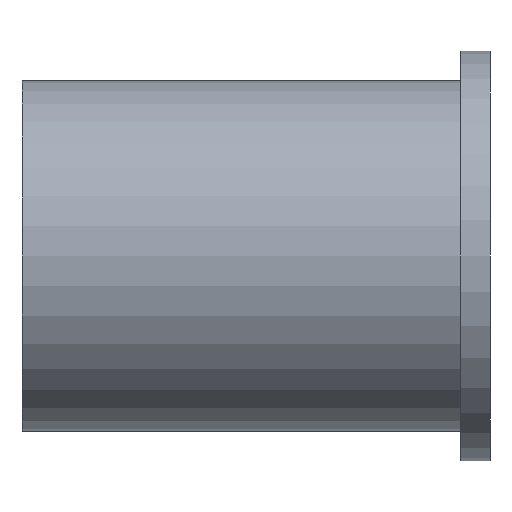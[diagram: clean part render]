
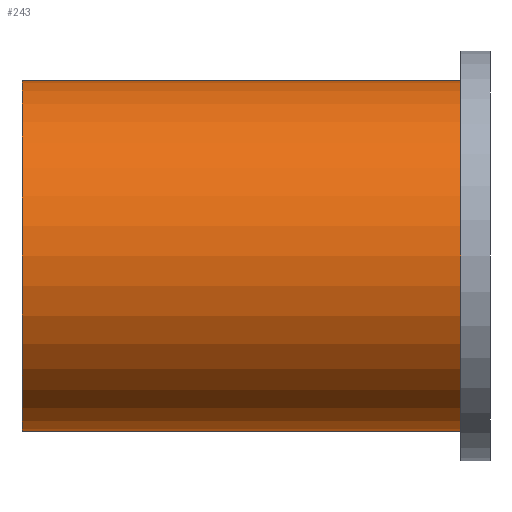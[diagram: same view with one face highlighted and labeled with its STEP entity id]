
A CAD part, left-side view. The second image highlights one B-rep face of the part: STEP entity #243.
In plain terms, the highlighted cylindrical face has radius 9.525 mm (diameter 19.05 mm), a partial arc.
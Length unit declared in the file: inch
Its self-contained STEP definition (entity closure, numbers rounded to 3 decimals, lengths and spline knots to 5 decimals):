
#1 = EDGE_LOOP ( 'NONE', ( #90, #49, #94, #24 ) ) ;
#2 = VERTEX_POINT ( 'NONE', #138 ) ;
#19 = CARTESIAN_POINT ( 'NONE',  ( 0., 1., 0.375 ) ) ;
#24 = ORIENTED_EDGE ( 'NONE', *, *, #156, .T. ) ;
#44 = AXIS2_PLACEMENT_3D ( 'NONE', #134, #213, #218 ) ;
#47 = LINE ( 'NONE', #200, #185 ) ;
#49 = ORIENTED_EDGE ( 'NONE', *, *, #276, .F. ) ;
#50 = VERTEX_POINT ( 'NONE', #83 ) ;
#51 = AXIS2_PLACEMENT_3D ( 'NONE', #69, #118, #202 ) ;
#69 = CARTESIAN_POINT ( 'NONE',  ( 0., 0.0625, 0. ) ) ;
#71 = CARTESIAN_POINT ( 'NONE',  ( 0., 1., 0. ) ) ;
#72 = VECTOR ( 'NONE', #257, 39.37008 ) ;
#83 = CARTESIAN_POINT ( 'NONE',  ( 0., 0.0625, 0.375 ) ) ;
#90 = ORIENTED_EDGE ( 'NONE', *, *, #100, .F. ) ;
#94 = ORIENTED_EDGE ( 'NONE', *, *, #121, .T. ) ;
#100 = EDGE_CURVE ( 'NONE', #119, #50, #223, .T. ) ;
#112 = DIRECTION ( 'NONE',  ( 0., -1., 0. ) ) ;
#118 = DIRECTION ( 'NONE',  ( 0., 1., 0. ) ) ;
#119 = VERTEX_POINT ( 'NONE', #19 ) ;
#121 = EDGE_CURVE ( 'NONE', #2, #264, #47, .T. ) ;
#134 = CARTESIAN_POINT ( 'NONE',  ( 0., 1., 0. ) ) ;
#138 = CARTESIAN_POINT ( 'NONE',  ( 0., 1., -0.375 ) ) ;
#156 = EDGE_CURVE ( 'NONE', #264, #50, #267, .T. ) ;
#176 = DIRECTION ( 'NONE',  ( 0., -1., 0. ) ) ;
#181 = AXIS2_PLACEMENT_3D ( 'NONE', #71, #112, #299 ) ;
#185 = VECTOR ( 'NONE', #176, 39.37008 ) ;
#194 = CARTESIAN_POINT ( 'NONE',  ( 0., 1., 0.375 ) ) ;
#200 = CARTESIAN_POINT ( 'NONE',  ( 0., 1., -0.375 ) ) ;
#202 = DIRECTION ( 'NONE',  ( 0., 0., 1. ) ) ;
#213 = DIRECTION ( 'NONE',  ( 0., 1., 0. ) ) ;
#215 = CYLINDRICAL_SURFACE ( 'NONE', #181, 0.375 ) ;
#218 = DIRECTION ( 'NONE',  ( 0., 0., 1. ) ) ;
#223 = LINE ( 'NONE', #194, #72 ) ;
#243 = ADVANCED_FACE ( 'NONE', ( #252 ), #215, .T. ) ;
#252 = FACE_OUTER_BOUND ( 'NONE', #1, .T. ) ;
#257 = DIRECTION ( 'NONE',  ( 0., -1., 0. ) ) ;
#264 = VERTEX_POINT ( 'NONE', #324 ) ;
#267 = CIRCLE ( 'NONE', #51, 0.375 ) ;
#276 = EDGE_CURVE ( 'NONE', #2, #119, #289, .T. ) ;
#289 = CIRCLE ( 'NONE', #44, 0.375 ) ;
#299 = DIRECTION ( 'NONE',  ( 0., 0., -1. ) ) ;
#324 = CARTESIAN_POINT ( 'NONE',  ( 0., 0.0625, -0.375 ) ) ;
